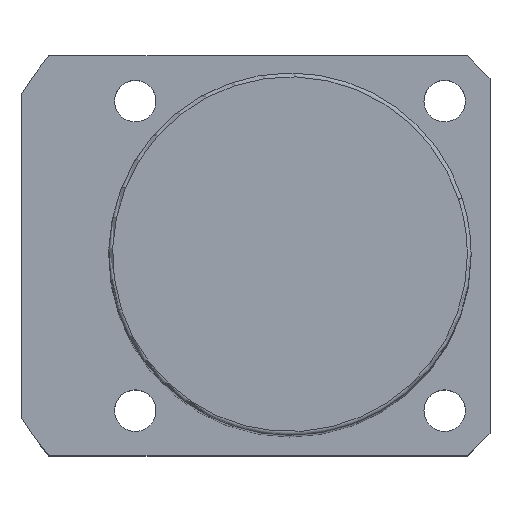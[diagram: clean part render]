
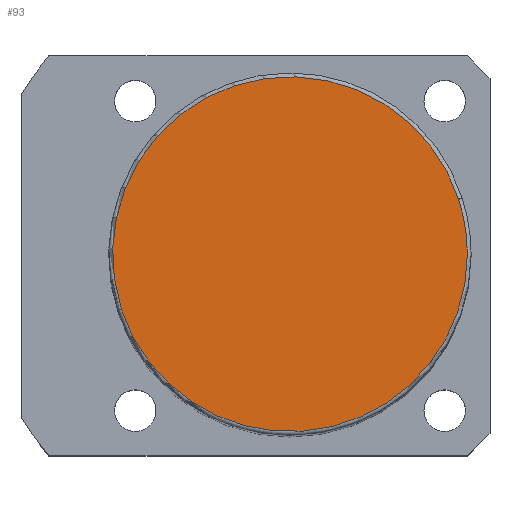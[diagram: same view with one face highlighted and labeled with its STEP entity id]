
A CAD part, top view. The second image highlights one B-rep face of the part: STEP entity #93.
In plain terms, the highlighted planar face has unit normal (0, 0, 1).
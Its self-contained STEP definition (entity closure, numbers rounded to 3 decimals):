
#16=CARTESIAN_POINT('',(22.35,7.262,139.0));
#17=VERTEX_POINT('',#16);
#45=CARTESIAN_POINT('',(-22.35,-7.262,139.0));
#46=VERTEX_POINT('',#45);
#54=CARTESIAN_POINT('',(0.0,0.0,139.0));
#55=DIRECTION('',(0.0,0.0,1.0));
#56=DIRECTION('',(1.0,0.0,0.0));
#57=AXIS2_PLACEMENT_3D('',#54,#55,#56);
#58=CIRCLE('',#57,23.5);
#59=EDGE_CURVE('no 890',#17,#46,#58,.T.);
#69=CARTESIAN_POINT('',(23.5,0.0,139.0));
#70=VERTEX_POINT('',#69);
#71=CARTESIAN_POINT('',(0.0,0.0,139.0));
#72=DIRECTION('',(0.0,0.0,1.0));
#73=DIRECTION('',(1.0,0.0,0.0));
#74=AXIS2_PLACEMENT_3D('',#71,#72,#73);
#75=CIRCLE('',#74,23.5);
#76=EDGE_CURVE('no 899',#70,#17,#75,.T.);
#77=ORIENTED_EDGE('',*,*,#76,.T.);
#78=ORIENTED_EDGE('',*,*,#59,.T.);
#79=CARTESIAN_POINT('',(0.0,0.0,139.0));
#80=DIRECTION('',(0.0,0.0,1.0));
#81=DIRECTION('',(1.0,0.0,0.0));
#82=AXIS2_PLACEMENT_3D('',#79,#80,#81);
#83=CIRCLE('',#82,23.5);
#84=EDGE_CURVE('no 905',#46,#70,#83,.T.);
#85=ORIENTED_EDGE('',*,*,#84,.T.);
#86=EDGE_LOOP('',(#77,#78,#85));
#87=FACE_OUTER_BOUND('',#86,.T.);
#88=CARTESIAN_POINT('',(0.0,0.0,139.0));
#89=DIRECTION('',(0.0,0.0,1.0));
#90=DIRECTION('',(1.0,0.0,0.0));
#91=AXIS2_PLACEMENT_3D('',#88,#89,#90);
#92=PLANE('',#91);
#93=ADVANCED_FACE('no 892',(#87),#92,.T.);
